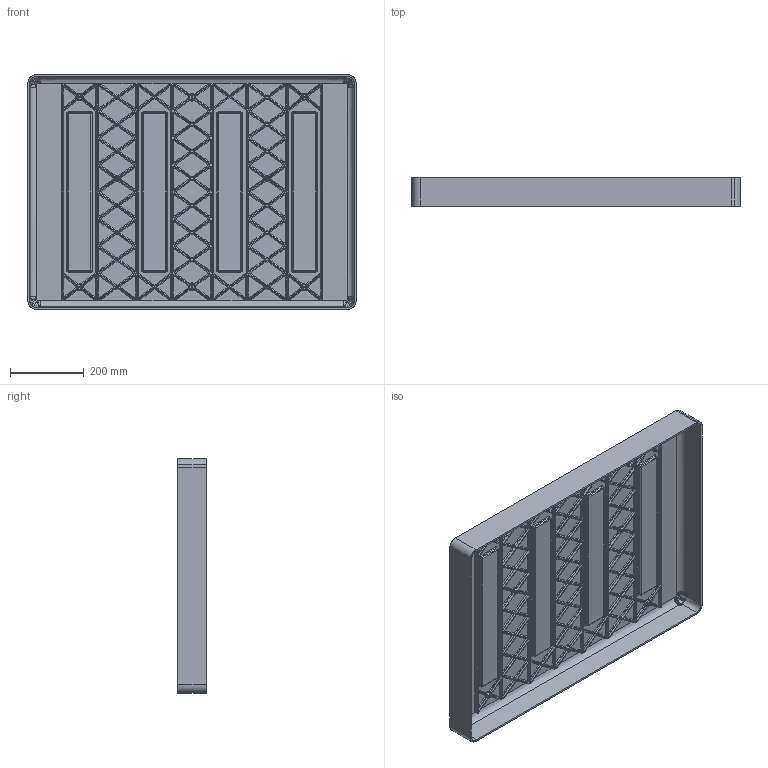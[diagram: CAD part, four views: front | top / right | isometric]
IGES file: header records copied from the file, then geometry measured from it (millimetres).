
Start section: SolidWorks IGES file using analytic representation for surfaces
Global section: file name: C:\Arnold\oem 1730\1730-CASE-TOP.IGS; native system: SolidWorks 2007; preprocessor: SolidWorks 2007; author: akameda; date: 080514.155143; units: inch
Bounding box: 890.21 x 78.11 x 636.21 mm (x, y, z)
Surface area: 1791210.6 mm2 (no closed solid volume)
Topology: 0 solids, 0 shells, 1682 faces, 15558 edges, 15520 vertices
Faces by surface type: bspline 868, revolution 814
